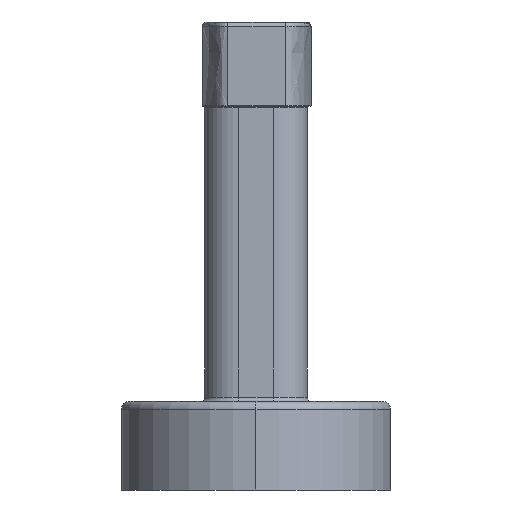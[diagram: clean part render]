
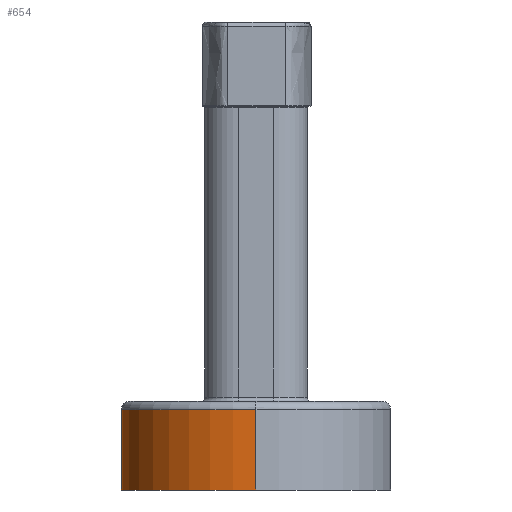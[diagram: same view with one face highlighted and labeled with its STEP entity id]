
A CAD part, left-side view. The second image highlights one B-rep face of the part: STEP entity #654.
In plain terms, the highlighted cylindrical face has radius 16 mm (diameter 32 mm), a partial arc.
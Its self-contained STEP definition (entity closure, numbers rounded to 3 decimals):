
#40 = EDGE_CURVE ( 'NONE', #1260, #1110, #3313, .T. ) ;
#56 = FACE_OUTER_BOUND ( 'NONE', #2404, .T. ) ;
#176 = CARTESIAN_POINT ( 'NONE',  ( -347.207, 13.658, 0. ) ) ;
#359 = DIRECTION ( 'NONE',  ( 0., 0., -1. ) ) ;
#456 = DIRECTION ( 'NONE',  ( 0., 0., 1. ) ) ;
#604 = EDGE_CURVE ( 'NONE', #2384, #1289, #1621, .T. ) ;
#654 = ADVANCED_FACE ( 'NONE', ( #56 ), #3220, .T. ) ;
#758 = VECTOR ( 'NONE', #2848, 1000. ) ;
#812 = DIRECTION ( 'NONE',  ( 0., 0., -1. ) ) ;
#892 = CARTESIAN_POINT ( 'NONE',  ( -363.206, -2.142, 9.4 ) ) ;
#902 = CARTESIAN_POINT ( 'NONE',  ( -347.207, -2.342, 9.4 ) ) ;
#981 = DIRECTION ( 'NONE',  ( -1., 0., 0. ) ) ;
#1081 = DIRECTION ( 'NONE',  ( -1., 0., 0. ) ) ;
#1110 = VERTEX_POINT ( 'NONE', #3020 ) ;
#1260 = VERTEX_POINT ( 'NONE', #892 ) ;
#1289 = VERTEX_POINT ( 'NONE', #2246 ) ;
#1474 = CARTESIAN_POINT ( 'NONE',  ( -363.206, -2.142, 5.2 ) ) ;
#1621 = LINE ( 'NONE', #3276, #2181 ) ;
#1694 = AXIS2_PLACEMENT_3D ( 'NONE', #3235, #2662, #981 ) ;
#1834 = EDGE_CURVE ( 'NONE', #1110, #2384, #3320, .T. ) ;
#2181 = VECTOR ( 'NONE', #456, 1000. ) ;
#2246 = CARTESIAN_POINT ( 'NONE',  ( -347.207, 13.658, 9.4 ) ) ;
#2300 = ORIENTED_EDGE ( 'NONE', *, *, #40, .F. ) ;
#2384 = VERTEX_POINT ( 'NONE', #176 ) ;
#2404 = EDGE_LOOP ( 'NONE', ( #2300, #2680, #3047, #3469 ) ) ;
#2474 = CARTESIAN_POINT ( 'NONE',  ( -347.207, -2.342, 10.4 ) ) ;
#2662 = DIRECTION ( 'NONE',  ( 0., 0., -1. ) ) ;
#2680 = ORIENTED_EDGE ( 'NONE', *, *, #2944, .T. ) ;
#2806 = DIRECTION ( 'NONE',  ( -1., 0., 0. ) ) ;
#2848 = DIRECTION ( 'NONE',  ( 0., 0., -1. ) ) ;
#2944 = EDGE_CURVE ( 'NONE', #1260, #1289, #3180, .T. ) ;
#3020 = CARTESIAN_POINT ( 'NONE',  ( -363.206, -2.142, 0. ) ) ;
#3047 = ORIENTED_EDGE ( 'NONE', *, *, #604, .F. ) ;
#3122 = AXIS2_PLACEMENT_3D ( 'NONE', #2474, #812, #1081 ) ;
#3180 = CIRCLE ( 'NONE', #3326, 16. ) ;
#3220 = CYLINDRICAL_SURFACE ( 'NONE', #3122, 16. ) ;
#3235 = CARTESIAN_POINT ( 'NONE',  ( -347.207, -2.342, 0. ) ) ;
#3276 = CARTESIAN_POINT ( 'NONE',  ( -347.207, 13.658, 10.4 ) ) ;
#3313 = LINE ( 'NONE', #1474, #758 ) ;
#3320 = CIRCLE ( 'NONE', #1694, 16. ) ;
#3326 = AXIS2_PLACEMENT_3D ( 'NONE', #902, #359, #2806 ) ;
#3469 = ORIENTED_EDGE ( 'NONE', *, *, #1834, .F. ) ;
